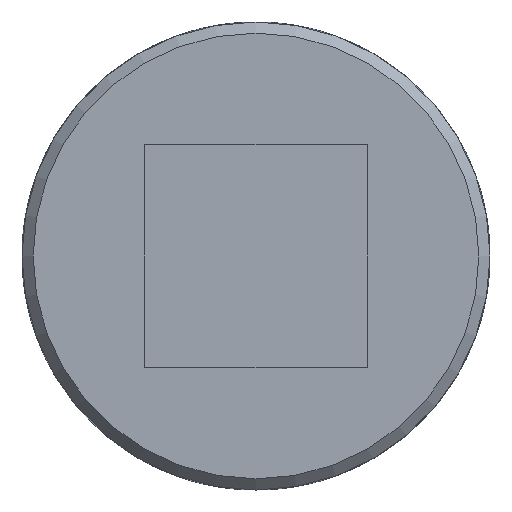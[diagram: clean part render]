
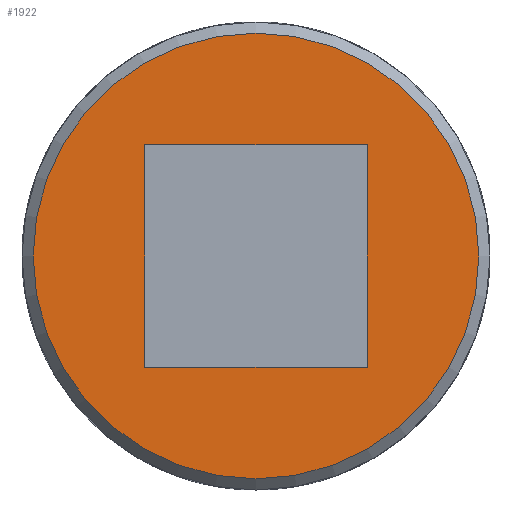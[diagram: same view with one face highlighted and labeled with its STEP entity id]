
A CAD part, front view. The second image highlights one B-rep face of the part: STEP entity #1922.
In plain terms, the highlighted planar face has unit normal (0, -1, 0).
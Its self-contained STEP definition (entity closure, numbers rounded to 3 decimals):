
#112=LINE('',#3582,#176);
#116=LINE('',#3605,#180);
#122=LINE('',#3643,#186);
#125=LINE('',#3663,#189);
#176=VECTOR('',#2499,20.);
#180=VECTOR('',#2507,20.);
#186=VECTOR('',#2515,20.);
#189=VECTOR('',#2522,20.);
#240=PLANE('',#2118);
#421=FACE_BOUND('',#670,.T.);
#517=FACE_OUTER_BOUND('',#669,.T.);
#669=EDGE_LOOP('',(#1675));
#670=EDGE_LOOP('',(#1676,#1677,#1678,#1679));
#774=CIRCLE('',#2116,20.);
#919=VERTEX_POINT('',#3579);
#920=VERTEX_POINT('',#3581);
#926=VERTEX_POINT('',#3604);
#935=VERTEX_POINT('',#3641);
#942=VERTEX_POINT('',#3708);
#1159=EDGE_CURVE('',#920,#919,#112,.T.);
#1166=EDGE_CURVE('',#926,#920,#116,.T.);
#1176=EDGE_CURVE('',#919,#935,#122,.T.);
#1182=EDGE_CURVE('',#935,#926,#125,.T.);
#1193=EDGE_CURVE('',#942,#942,#774,.T.);
#1675=ORIENTED_EDGE('',*,*,#1193,.F.);
#1676=ORIENTED_EDGE('',*,*,#1159,.T.);
#1677=ORIENTED_EDGE('',*,*,#1176,.T.);
#1678=ORIENTED_EDGE('',*,*,#1182,.T.);
#1679=ORIENTED_EDGE('',*,*,#1166,.T.);
#1922=ADVANCED_FACE('',(#517,#421),#240,.F.);
#2116=AXIS2_PLACEMENT_3D('',#3709,#2551,#2552);
#2118=AXIS2_PLACEMENT_3D('',#3933,#2559,#2560);
#2499=DIRECTION('',(0.,0.,-1.));
#2507=DIRECTION('',(1.,0.,0.));
#2515=DIRECTION('',(-1.,0.,0.));
#2522=DIRECTION('',(0.,0.,1.));
#2551=DIRECTION('center_axis',(0.,1.,0.));
#2552=DIRECTION('ref_axis',(1.,0.,0.));
#2559=DIRECTION('center_axis',(0.,1.,0.));
#2560=DIRECTION('ref_axis',(0.,0.,1.));
#3579=CARTESIAN_POINT('',(10.,-64.,-10.));
#3581=CARTESIAN_POINT('',(10.,-64.,10.));
#3582=CARTESIAN_POINT('',(10.,-64.,5.));
#3604=CARTESIAN_POINT('',(-10.,-64.,10.));
#3605=CARTESIAN_POINT('',(-5.,-64.,10.));
#3641=CARTESIAN_POINT('',(-10.,-64.,-10.));
#3643=CARTESIAN_POINT('',(5.,-64.,-10.));
#3663=CARTESIAN_POINT('',(-10.,-64.,-5.));
#3708=CARTESIAN_POINT('',(-20.,-64.,0.));
#3709=CARTESIAN_POINT('Origin',(0.,-64.,0.));
#3933=CARTESIAN_POINT('Origin',(0.,-64.,0.));
